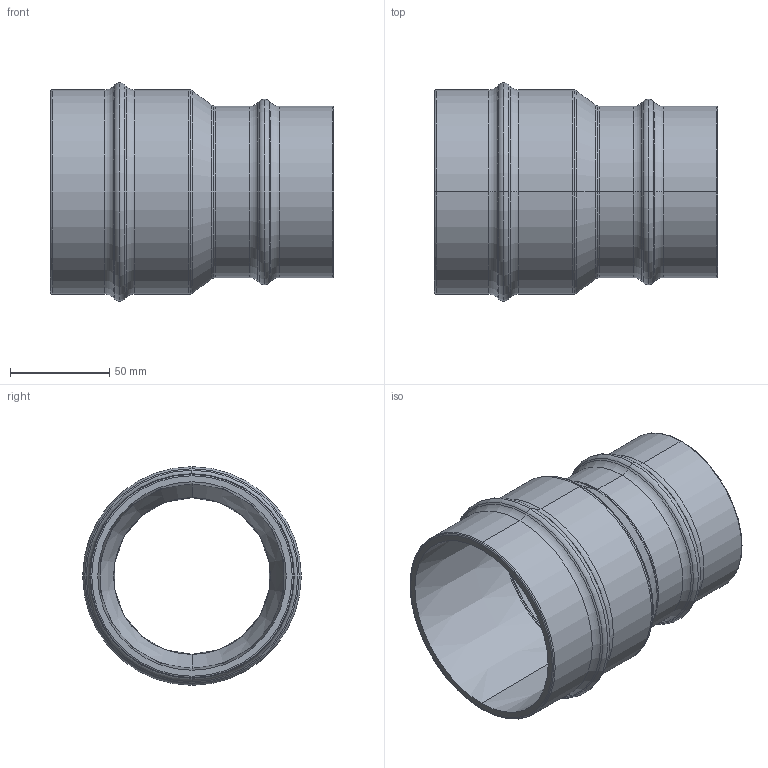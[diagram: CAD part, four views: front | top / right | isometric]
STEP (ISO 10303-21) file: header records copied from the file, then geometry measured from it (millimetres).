
FILE_DESCRIPTION((''),'2;1');
FILE_NAME('2014872100','2017-05-12T',('Administrator'),(''),'PRO/ENGINEER BY PARAMETRIC TECHNOLOGY CORPORATION, 2009360','PRO/ENGINEER BY PARAMETRIC TECHNOLOGY CORPORATION, 2009360','');
FILE_SCHEMA(('AUTOMOTIVE_DESIGN_CC2 { 1 2 10303 214 -1 1 5 2 }'));
Length unit declared in the file: millimetre
Products named in the file (1): 2014872100
Bounding box: 142.5 x 109.96 x 109.96 mm (x, y, z)
Volume: 190919.4 mm3; surface area: 86029.2 mm2
Topology: 1 solids, 1 shells, 66 faces, 132 edges, 68 vertices
Faces by surface type: torus 40, cone 16, cylinder 8, plane 2
Entity records: 2135 total; most frequent: DIRECTION 372, CARTESIAN_POINT 266, ORIENTED_EDGE 264, AXIS2_PLACEMENT_3D 174, PRESENTATION_STYLE_ASSIGNMENT 133, STYLED_ITEM 133, CURVE_STYLE 132, EDGE_CURVE 132
